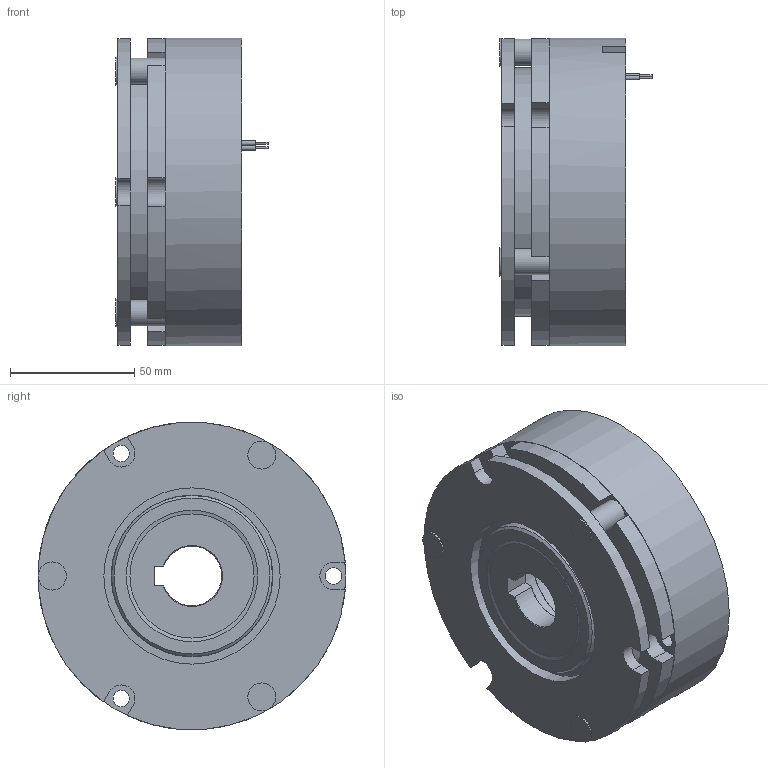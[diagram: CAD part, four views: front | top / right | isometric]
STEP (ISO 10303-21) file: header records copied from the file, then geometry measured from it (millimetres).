
FILE_DESCRIPTION (( 'STEP AP214' ), '1' );
FILE_NAME ('KS_10112A00_Customer_3D_model_19.12.17.STEP', '2020-03-24T10:46:56', ( '' ), ( '' ), 'SwSTEP 2.0', 'SolidWorks 2018', '' );
FILE_SCHEMA (( 'AUTOMOTIVE_DESIGN' ));
Length unit declared in the file: millimetre
Products named in the file (1): KS_10112A00_Customer_3D_model_19.12.17
Bounding box: 61.25 x 124 x 124 mm (x, y, z)
Volume: 508927.6 mm3; surface area: 82417 mm2
Topology: 1 solids, 1 shells, 97 faces, 229 edges, 153 vertices
Faces by surface type: plane 45, cylinder 43, cone 8, torus 1
Full cylindrical faces by diameter (mm): 0.9 x2, 1.8 x2, 5 x3, 6.6 x3, 10.5 x3, 11.3 x3, 38 x2, 46.8 x1, 50 x1, 71 x1, 100 x1, 124 x1
Entity records: 2705 total; most frequent: DIRECTION 480, CARTESIAN_POINT 446, ORIENTED_EDGE 382, AXIS2_PLACEMENT_3D 195, EDGE_CURVE 191, EDGE_LOOP 160, VERTEX_POINT 145, FACE_OUTER_BOUND 121
